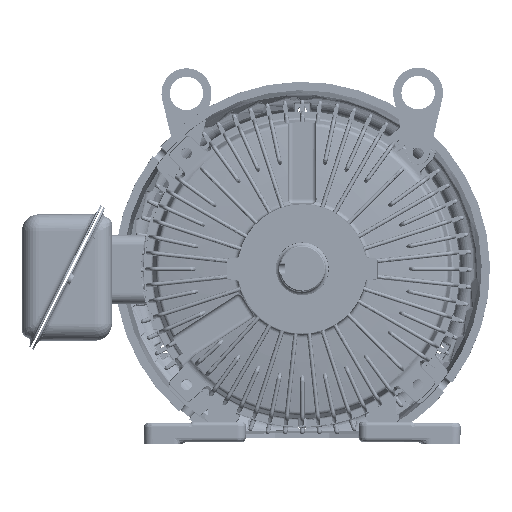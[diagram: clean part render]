
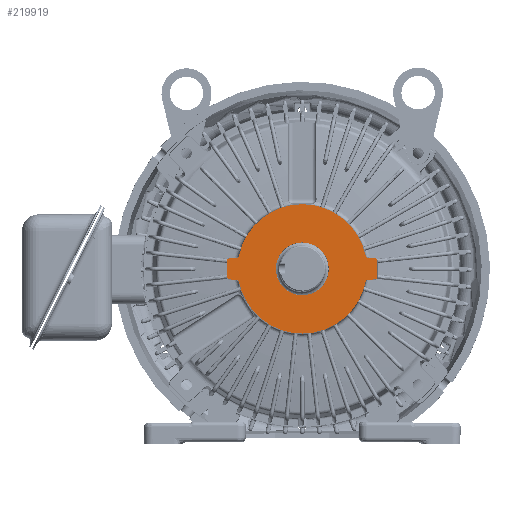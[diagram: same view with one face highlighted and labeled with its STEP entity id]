
A CAD part, top view. The second image highlights one B-rep face of the part: STEP entity #219919.
In plain terms, the highlighted planar face has unit normal (0, 0, 1) as drawn and (0, 0, -1) by its records, which use the part's own axes.
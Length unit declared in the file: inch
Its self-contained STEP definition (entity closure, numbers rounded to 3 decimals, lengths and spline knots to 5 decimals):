
#187346=CARTESIAN_POINT('',(0.,0.,-1.531));
#187347=DIRECTION('',(0.,0.,-1.));
#187348=DIRECTION('',(0.98,-0.198,0.));
#187349=AXIS2_PLACEMENT_3D('',#187346,#187347,#187348);
#187734=CARTESIAN_POINT('',(0.,0.,-1.531));
#187735=DIRECTION('',(0.,0.,-1.));
#187736=DIRECTION('',(-0.98,0.198,0.));
#187737=AXIS2_PLACEMENT_3D('',#187734,#187735,#187736);
#198512=DIRECTION('',(0.,-1.,0.));
#198513=VECTOR('',#198512,0.49948);
#198514=CARTESIAN_POINT('',(-2.25,0.25024,-1.531));
#198515=LINE('',#198514,#198513);
#198516=DIRECTION('',(0.,1.,0.));
#198517=VECTOR('',#198516,0.49948);
#198518=CARTESIAN_POINT('',(2.25,-0.25024,-1.531));
#198519=LINE('',#198518,#198517);
#198520=CARTESIAN_POINT('',(0.,0.,-1.531));
#198521=DIRECTION('',(0.,0.,1.));
#198522=DIRECTION('',(0.,1.,0.));
#198523=AXIS2_PLACEMENT_3D('',#198520,#198521,#198522);
#198525=CARTESIAN_POINT('',(0.,0.,-1.531));
#198526=DIRECTION('',(0.,0.,1.));
#198527=DIRECTION('',(0.,-1.,0.));
#198528=AXIS2_PLACEMENT_3D('',#198525,#198526,#198527);
#198534=CARTESIAN_POINT('',(-1.96081,0.39651,-1.531));
#198535=DIRECTION('',(0.,0.,1.));
#198536=DIRECTION('',(0.087,-0.996,0.));
#198537=AXIS2_PLACEMENT_3D('',#198534,#198535,#198536);
#198543=DIRECTION('',(0.996,0.087,0.));
#198544=VECTOR('',#198543,0.23808);
#198545=CARTESIAN_POINT('',(-2.19249,0.313,-1.531));
#198546=LINE('',#198545,#198544);
#198566=CARTESIAN_POINT('',(-2.187,0.25024,-1.531));
#198567=DIRECTION('',(0.,0.,-1.));
#198568=DIRECTION('',(-1.,0.,0.));
#198569=AXIS2_PLACEMENT_3D('',#198566,#198567,#198568);
#198727=CARTESIAN_POINT('',(-2.187,-0.24924,-1.531));
#198728=DIRECTION('',(0.,0.,-1.));
#198729=DIRECTION('',(-0.087,-0.996,0.));
#198730=AXIS2_PLACEMENT_3D('',#198727,#198728,#198729);
#198751=DIRECTION('',(-0.996,0.087,0.));
#198752=VECTOR('',#198751,0.23787);
#198753=CARTESIAN_POINT('',(-1.95553,-0.33273,-1.531));
#198754=LINE('',#198753,#198752);
#198755=CARTESIAN_POINT('',(-1.96102,-0.39549,-1.531));
#198756=DIRECTION('',(0.,0.,1.));
#198757=DIRECTION('',(0.98,0.197,0.));
#198758=AXIS2_PLACEMENT_3D('',#198755,#198756,#198757);
#198784=CARTESIAN_POINT('',(1.96081,-0.39651,-1.531));
#198785=DIRECTION('',(0.,0.,1.));
#198786=DIRECTION('',(-0.087,0.996,0.));
#198787=AXIS2_PLACEMENT_3D('',#198784,#198785,#198786);
#198793=DIRECTION('',(-0.996,-0.087,0.));
#198794=VECTOR('',#198793,0.23808);
#198795=CARTESIAN_POINT('',(2.19249,-0.313,-1.531));
#198796=LINE('',#198795,#198794);
#198816=CARTESIAN_POINT('',(2.187,-0.25024,-1.531));
#198817=DIRECTION('',(0.,0.,-1.));
#198818=DIRECTION('',(1.,0.,0.));
#198819=AXIS2_PLACEMENT_3D('',#198816,#198817,#198818);
#198977=CARTESIAN_POINT('',(2.187,0.24924,-1.531));
#198978=DIRECTION('',(0.,0.,-1.));
#198979=DIRECTION('',(0.087,0.996,0.));
#198980=AXIS2_PLACEMENT_3D('',#198977,#198978,#198979);
#199001=DIRECTION('',(0.996,-0.087,0.));
#199002=VECTOR('',#199001,0.23787);
#199003=CARTESIAN_POINT('',(1.95553,0.33273,-1.531));
#199004=LINE('',#199003,#199002);
#199005=CARTESIAN_POINT('',(1.96102,0.39549,-1.531));
#199006=DIRECTION('',(0.,0.,1.));
#199007=DIRECTION('',(-0.98,-0.197,0.));
#199008=AXIS2_PLACEMENT_3D('',#199005,#199006,#199007);
#206977=CARTESIAN_POINT('',(2.25,-0.25024,-1.531));
#206978=CARTESIAN_POINT('',(2.19249,-0.313,-1.531));
#206979=VERTEX_POINT('',#206977);
#206980=VERTEX_POINT('',#206978);
#206981=CARTESIAN_POINT('',(1.95532,-0.33375,-1.531));
#206982=VERTEX_POINT('',#206981);
#206983=CARTESIAN_POINT('',(2.19249,0.312,-1.531));
#206984=CARTESIAN_POINT('',(2.25,0.24924,-1.531));
#206985=VERTEX_POINT('',#206983);
#206986=VERTEX_POINT('',#206984);
#206991=CARTESIAN_POINT('',(-2.25,0.25024,-1.531));
#206992=CARTESIAN_POINT('',(-2.19249,0.313,-1.531));
#206993=VERTEX_POINT('',#206991);
#206994=VERTEX_POINT('',#206992);
#206995=CARTESIAN_POINT('',(-1.95532,0.33375,-1.531));
#206996=VERTEX_POINT('',#206995);
#206997=CARTESIAN_POINT('',(-2.19249,-0.312,-1.531));
#206998=CARTESIAN_POINT('',(-2.25,-0.24924,-1.531));
#206999=VERTEX_POINT('',#206997);
#207000=VERTEX_POINT('',#206998);
#207005=CARTESIAN_POINT('',(1.89906,-0.38402,-1.531));
#207006=CARTESIAN_POINT('',(-1.89925,-0.38308,-1.531));
#207007=VERTEX_POINT('',#207005);
#207008=VERTEX_POINT('',#207006);
#207009=CARTESIAN_POINT('',(-1.89905,0.38409,-1.531));
#207010=CARTESIAN_POINT('',(1.89925,0.3831,-1.531));
#207011=VERTEX_POINT('',#207009);
#207012=VERTEX_POINT('',#207010);
#209030=CARTESIAN_POINT('',(1.95553,0.33273,-1.531));
#209031=VERTEX_POINT('',#209030);
#209033=CARTESIAN_POINT('',(-1.95553,-0.33273,-1.531));
#209034=VERTEX_POINT('',#209033);
#209888=CARTESIAN_POINT('',(0.,0.7925,-1.531));
#209889=CARTESIAN_POINT('',(0.,-0.7925,-1.531));
#209890=VERTEX_POINT('',#209888);
#209891=VERTEX_POINT('',#209889);
#219877=CARTESIAN_POINT('',(0.,0.,-1.531));
#219878=DIRECTION('',(0.,0.,-1.));
#219879=DIRECTION('',(0.,-1.,0.));
#219880=AXIS2_PLACEMENT_3D('',#219877,#219878,#219879);
#219881=PLANE('',#219880);
#219882=ORIENTED_EDGE('',*,*,#210079,.F.);
#219884=ORIENTED_EDGE('',*,*,#219883,.F.);
#219886=ORIENTED_EDGE('',*,*,#219885,.F.);
#219888=ORIENTED_EDGE('',*,*,#219887,.F.);
#219890=ORIENTED_EDGE('',*,*,#219889,.T.);
#219892=ORIENTED_EDGE('',*,*,#219891,.F.);
#219894=ORIENTED_EDGE('',*,*,#219893,.F.);
#219896=ORIENTED_EDGE('',*,*,#219895,.F.);
#219897=ORIENTED_EDGE('',*,*,#209937,.F.);
#219899=ORIENTED_EDGE('',*,*,#219898,.F.);
#219901=ORIENTED_EDGE('',*,*,#219900,.F.);
#219903=ORIENTED_EDGE('',*,*,#219902,.F.);
#219905=ORIENTED_EDGE('',*,*,#219904,.T.);
#219907=ORIENTED_EDGE('',*,*,#219906,.F.);
#219909=ORIENTED_EDGE('',*,*,#219908,.F.);
#219911=ORIENTED_EDGE('',*,*,#219910,.F.);
#219912=EDGE_LOOP('',(#219882,#219884,#219886,#219888,#219890,#219892,#219894,
#219896,#219897,#219899,#219901,#219903,#219905,#219907,#219909,#219911));
#219913=FACE_OUTER_BOUND('',#219912,.F.);
#219914=ORIENTED_EDGE('',*,*,#219867,.F.);
#219916=ORIENTED_EDGE('',*,*,#219915,.F.);
#219917=EDGE_LOOP('',(#219914,#219916));
#219918=FACE_BOUND('',#219917,.F.);
#219919=ADVANCED_FACE('',(#219913,#219918),#219881,.T.);
#187350=CIRCLE('',#187349,1.9375);
#187738=CIRCLE('',#187737,1.9375);
#198524=CIRCLE('',#198523,0.7925);
#198529=CIRCLE('',#198528,0.7925);
#198538=CIRCLE('',#198537,0.063);
#198570=CIRCLE('',#198569,0.063);
#198731=CIRCLE('',#198730,0.063);
#198759=CIRCLE('',#198758,0.063);
#198788=CIRCLE('',#198787,0.063);
#198820=CIRCLE('',#198819,0.063);
#198981=CIRCLE('',#198980,0.063);
#199009=CIRCLE('',#199008,0.063);
#209937=EDGE_CURVE('',#207007,#207008,#187350,.T.);
#210079=EDGE_CURVE('',#207011,#207012,#187738,.T.);
#219867=EDGE_CURVE('',#209890,#209891,#198524,.T.);
#219883=EDGE_CURVE('',#206996,#207011,#198538,.T.);
#219885=EDGE_CURVE('',#206994,#206996,#198546,.T.);
#219887=EDGE_CURVE('',#206993,#206994,#198570,.T.);
#219889=EDGE_CURVE('',#206993,#207000,#198515,.T.);
#219891=EDGE_CURVE('',#206999,#207000,#198731,.T.);
#219893=EDGE_CURVE('',#209034,#206999,#198754,.T.);
#219895=EDGE_CURVE('',#207008,#209034,#198759,.T.);
#219898=EDGE_CURVE('',#206982,#207007,#198788,.T.);
#219900=EDGE_CURVE('',#206980,#206982,#198796,.T.);
#219902=EDGE_CURVE('',#206979,#206980,#198820,.T.);
#219904=EDGE_CURVE('',#206979,#206986,#198519,.T.);
#219906=EDGE_CURVE('',#206985,#206986,#198981,.T.);
#219908=EDGE_CURVE('',#209031,#206985,#199004,.T.);
#219910=EDGE_CURVE('',#207012,#209031,#199009,.T.);
#219915=EDGE_CURVE('',#209891,#209890,#198529,.T.);
